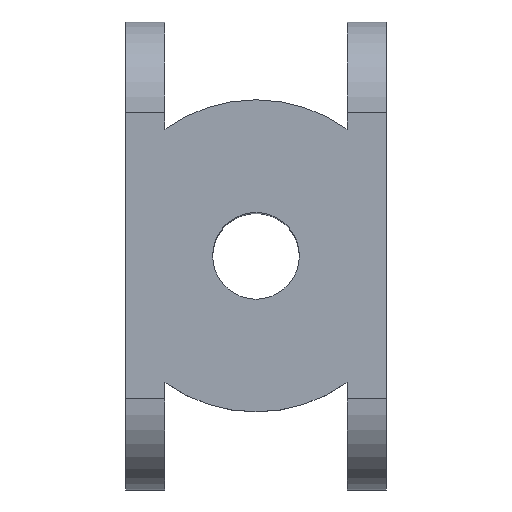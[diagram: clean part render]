
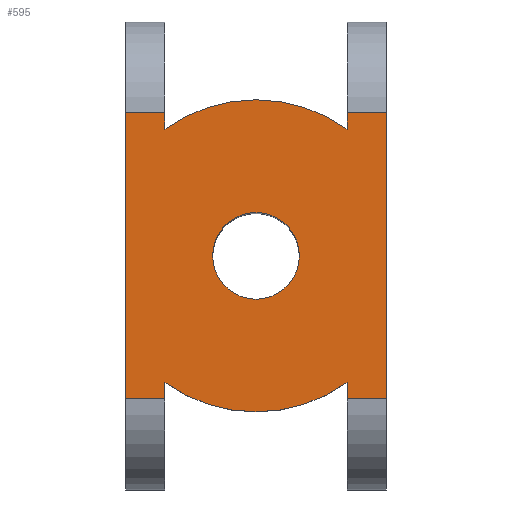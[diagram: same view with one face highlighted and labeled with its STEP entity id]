
A CAD part, top view. The second image highlights one B-rep face of the part: STEP entity #595.
In plain terms, the highlighted planar face has unit normal (0, 0, 1).
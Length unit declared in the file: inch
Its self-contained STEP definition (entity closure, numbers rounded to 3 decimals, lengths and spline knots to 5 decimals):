
#50=LINE('',#901,#106);
#53=LINE('',#915,#109);
#56=LINE('',#932,#112);
#57=LINE('',#938,#113);
#59=LINE('',#943,#115);
#63=LINE('',#950,#119);
#65=LINE('',#962,#121);
#66=LINE('',#970,#122);
#67=LINE('',#972,#123);
#68=LINE('',#975,#124);
#106=VECTOR('',#723,0.07833);
#109=VECTOR('',#738,0.07833);
#112=VECTOR('',#757,0.1875);
#113=VECTOR('',#762,0.1875);
#115=VECTOR('',#768,1.375);
#119=VECTOR('',#774,0.07833);
#121=VECTOR('',#788,0.1875);
#122=VECTOR('',#799,0.1875);
#123=VECTOR('',#802,1.375);
#124=VECTOR('',#805,0.07833);
#147=PLANE('',#652);
#163=FACE_BOUND('',#243,.T.);
#195=FACE_OUTER_BOUND('',#242,.T.);
#242=EDGE_LOOP('',(#535,#536,#537,#538,#539,#540,#541,#542,#543,#544,#545,
#546));
#243=EDGE_LOOP('',(#547));
#246=CIRCLE('',#601,0.2085);
#264=CIRCLE('',#648,0.75);
#266=CIRCLE('',#651,0.75);
#268=VERTEX_POINT('',#826);
#292=VERTEX_POINT('',#898);
#293=VERTEX_POINT('',#900);
#297=VERTEX_POINT('',#912);
#298=VERTEX_POINT('',#914);
#304=VERTEX_POINT('',#930);
#305=VERTEX_POINT('',#934);
#307=VERTEX_POINT('',#937);
#310=VERTEX_POINT('',#948);
#314=VERTEX_POINT('',#961);
#315=VERTEX_POINT('',#966);
#316=VERTEX_POINT('',#968);
#317=VERTEX_POINT('',#974);
#320=EDGE_CURVE('',#268,#268,#246,.T.);
#356=EDGE_CURVE('',#293,#292,#50,.T.);
#363=EDGE_CURVE('',#297,#298,#53,.T.);
#371=EDGE_CURVE('',#297,#304,#56,.T.);
#373=EDGE_CURVE('',#305,#307,#57,.T.);
#376=EDGE_CURVE('',#304,#307,#59,.T.);
#380=EDGE_CURVE('',#310,#305,#63,.T.);
#385=EDGE_CURVE('',#293,#314,#65,.T.);
#389=EDGE_CURVE('',#315,#316,#66,.T.);
#390=EDGE_CURVE('',#314,#316,#67,.T.);
#391=EDGE_CURVE('',#317,#315,#68,.T.);
#394=EDGE_CURVE('',#310,#317,#264,.T.);
#396=EDGE_CURVE('',#292,#298,#266,.T.);
#535=ORIENTED_EDGE('',*,*,#394,.T.);
#536=ORIENTED_EDGE('',*,*,#391,.T.);
#537=ORIENTED_EDGE('',*,*,#389,.T.);
#538=ORIENTED_EDGE('',*,*,#390,.F.);
#539=ORIENTED_EDGE('',*,*,#385,.F.);
#540=ORIENTED_EDGE('',*,*,#356,.T.);
#541=ORIENTED_EDGE('',*,*,#396,.T.);
#542=ORIENTED_EDGE('',*,*,#363,.F.);
#543=ORIENTED_EDGE('',*,*,#371,.T.);
#544=ORIENTED_EDGE('',*,*,#376,.T.);
#545=ORIENTED_EDGE('',*,*,#373,.F.);
#546=ORIENTED_EDGE('',*,*,#380,.F.);
#547=ORIENTED_EDGE('',*,*,#320,.T.);
#595=ADVANCED_FACE('',(#195,#163),#147,.T.);
#601=AXIS2_PLACEMENT_3D('',#827,#660,#661);
#648=AXIS2_PLACEMENT_3D('',#980,#810,#811);
#651=AXIS2_PLACEMENT_3D('',#983,#816,#817);
#652=AXIS2_PLACEMENT_3D('',#984,#818,#819);
#660=DIRECTION('center_axis',(0.,0.,-1.));
#661=DIRECTION('ref_axis',(1.,0.,0.));
#723=DIRECTION('',(0.,-1.,0.));
#738=DIRECTION('',(0.,-1.,0.));
#757=DIRECTION('',(-1.,0.,0.));
#762=DIRECTION('',(-1.,0.,0.));
#768=DIRECTION('',(0.,-1.,0.));
#774=DIRECTION('',(0.,-1.,0.));
#788=DIRECTION('',(1.,0.,0.));
#799=DIRECTION('',(1.,0.,0.));
#802=DIRECTION('',(0.,-1.,0.));
#805=DIRECTION('',(0.,-1.,0.));
#810=DIRECTION('center_axis',(0.,0.,1.));
#811=DIRECTION('ref_axis',(-0.583,-0.812,0.));
#816=DIRECTION('center_axis',(0.,0.,1.));
#817=DIRECTION('ref_axis',(0.583,0.812,0.));
#818=DIRECTION('center_axis',(0.,0.,1.));
#819=DIRECTION('ref_axis',(1.,0.,0.));
#826=CARTESIAN_POINT('',(0.2085,0.,0.));
#827=CARTESIAN_POINT('Origin',(0.,0.,0.));
#898=CARTESIAN_POINT('',(0.4375,0.60917,0.));
#900=CARTESIAN_POINT('',(0.4375,0.6875,0.));
#901=CARTESIAN_POINT('',(0.4375,-0.60917,0.));
#912=CARTESIAN_POINT('',(-0.4375,0.6875,0.));
#914=CARTESIAN_POINT('',(-0.4375,0.60917,0.));
#915=CARTESIAN_POINT('',(-0.4375,-0.60917,0.));
#930=CARTESIAN_POINT('',(-0.625,0.6875,0.));
#932=CARTESIAN_POINT('',(-0.4375,0.6875,0.));
#934=CARTESIAN_POINT('',(-0.4375,-0.6875,0.));
#937=CARTESIAN_POINT('',(-0.625,-0.6875,0.));
#938=CARTESIAN_POINT('',(-0.4375,-0.6875,0.));
#943=CARTESIAN_POINT('',(-0.625,0.75,0.));
#948=CARTESIAN_POINT('',(-0.4375,-0.60917,0.));
#950=CARTESIAN_POINT('',(-0.4375,-0.60917,0.));
#961=CARTESIAN_POINT('',(0.625,0.6875,0.));
#962=CARTESIAN_POINT('',(0.4375,0.6875,0.));
#966=CARTESIAN_POINT('',(0.4375,-0.6875,0.));
#968=CARTESIAN_POINT('',(0.625,-0.6875,0.));
#970=CARTESIAN_POINT('',(0.4375,-0.6875,0.));
#972=CARTESIAN_POINT('',(0.625,0.75,0.));
#974=CARTESIAN_POINT('',(0.4375,-0.60917,0.));
#975=CARTESIAN_POINT('',(0.4375,-0.60917,0.));
#980=CARTESIAN_POINT('Origin',(0.,0.,0.));
#983=CARTESIAN_POINT('Origin',(0.,0.,0.));
#984=CARTESIAN_POINT('Origin',(0.,0.,0.));
